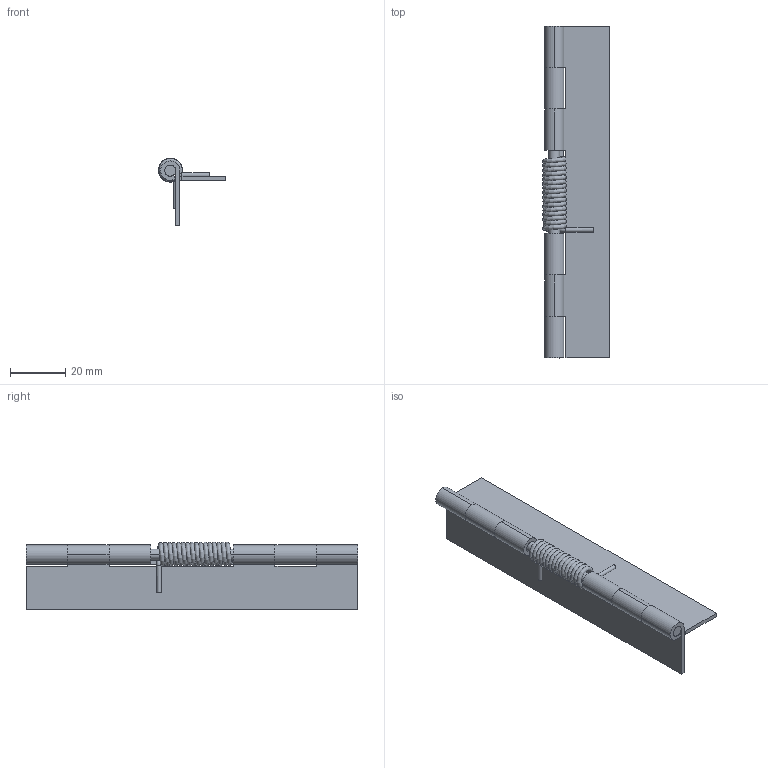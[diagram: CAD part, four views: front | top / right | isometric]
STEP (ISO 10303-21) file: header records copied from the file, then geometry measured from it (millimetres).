
FILE_DESCRIPTION((''),'2;1');
FILE_NAME('6164.01.stp','2015-10-09T11:10:04',(''),(''),'Mechanical Desktop 2006','Mechanical Desktop 2006',', , ');
FILE_SCHEMA(('CONFIG_CONTROL_DESIGN'));
Length unit declared in the file: millimetre
Products named in the file (5): 6164; TEIL2; TEIL3; TEIL6; TEIL7
Assembly tree (4 placements, depth 2):
  6164
    TEIL2
    TEIL3
    TEIL6
    TEIL7
Bounding box: 24.26 x 120 x 24.53 mm (x, y, z)
Volume: 10480.9 mm3; surface area: 15536.7 mm2
Topology: 4 solids, 4 shells, 67 faces, 177 edges, 118 vertices
Faces by surface type: plane 36, bspline 29, torus 2
Entity records: 7954 total; most frequent: CARTESIAN_POINT 6208, ORIENTED_EDGE 346, DIRECTION 316, EDGE_CURVE 173, VERTEX_POINT 118, VECTOR 110, LINE 110, AXIS2_PLACEMENT_3D 103
